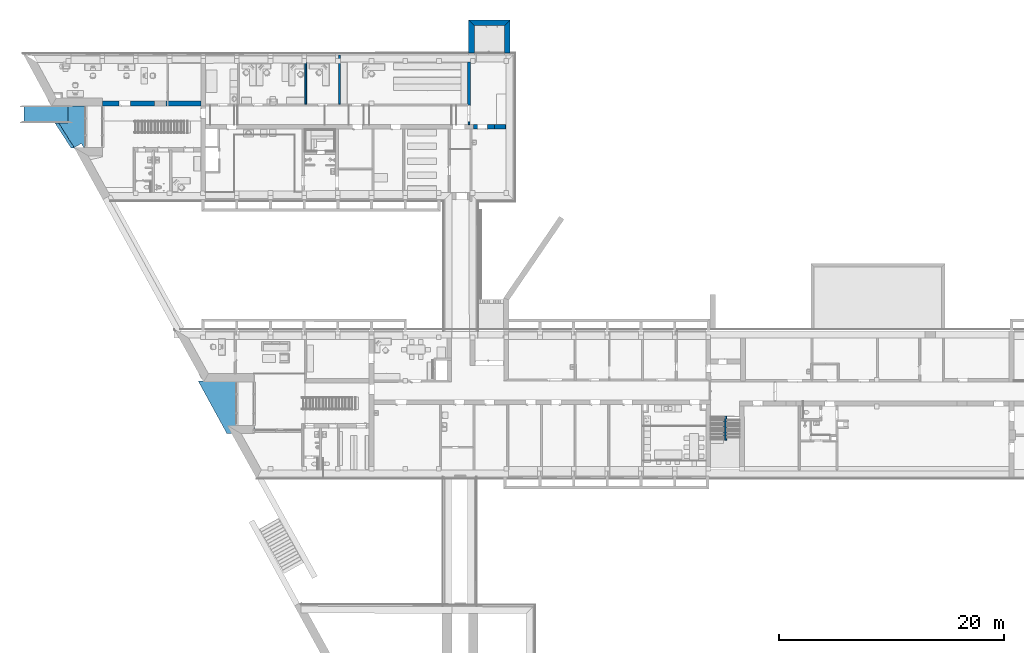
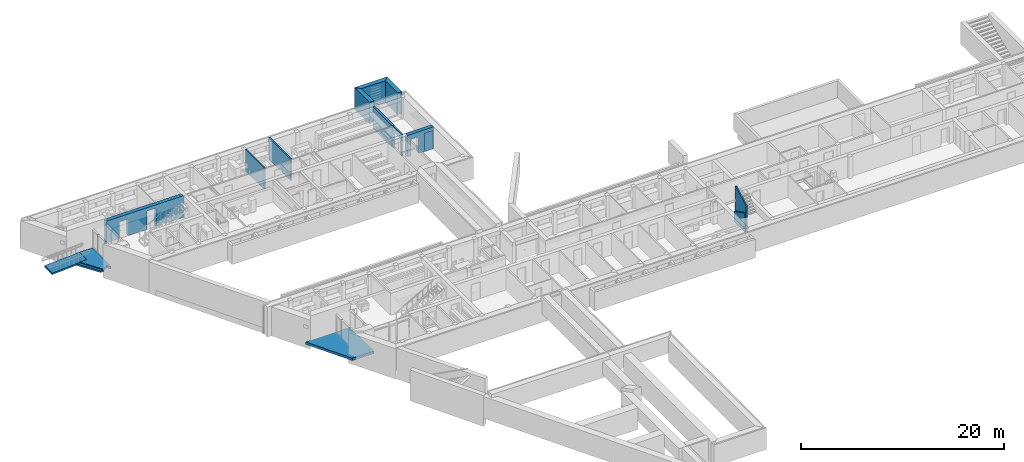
# One storey, part 25 of 127: 12 walls, 3 stairs, 1 ramp, 3 openings.
"""IFC2X3 building model written with IfcOpenShell, lengths in millimetres."""

from ifc_helpers import new_model, entity, si_unit, converted_unit, derived_unit, money_unit, direction, frame, origin_with_axes, origin_2d_with_axis, place, context, subcontext, project, spatial, polyline, rectangle, outline, extrude, boolean, faceted_brep, material, layer, layer_set, layer_usage, type_object, element, save


model = new_model("IFC2X3")

# Units and contexts
model_context = context("Model", 3, precision=1e-05, world=origin_with_axes(), true_north=direction((0.0, 1.0)))
body_context = subcontext(model_context, "Body", "Model", "MODEL_VIEW")
ifc_project = project(units=[si_unit("LENGTHUNIT", "METRE", prefix="MILLI"), si_unit("AREAUNIT", "SQUARE_METRE"), si_unit("VOLUMEUNIT", "CUBIC_METRE"), converted_unit("PLANEANGLEUNIT", "DEGREE", entity("IfcPlaneAngleMeasure", 0.0174532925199), si_unit("PLANEANGLEUNIT", "RADIAN"), dimensions=[0, 0, 0, 0, 0, 0, 0]), si_unit("SOLIDANGLEUNIT", "STERADIAN"), money_unit("EUR"), converted_unit("TIMEUNIT", "Year", entity("IfcTimeMeasure", 31556926.0), si_unit("TIMEUNIT", "SECOND"), dimensions=[0, 0, 1, 0, 0, 0, 0]), si_unit("MASSUNIT", "GRAM", prefix="KILO"), si_unit("THERMODYNAMICTEMPERATUREUNIT", "DEGREE_CELSIUS"), si_unit("LUMINOUSINTENSITYUNIT", "LUMEN"), si_unit("ENERGYUNIT", "JOULE", prefix="MEGA"), derived_unit("THERMALCONDUCTANCEUNIT", [(si_unit("POWERUNIT", "WATT"), 1), (si_unit("LENGTHUNIT", "METRE"), -1), (si_unit("THERMODYNAMICTEMPERATUREUNIT", "KELVIN"), -1)]), derived_unit("SPECIFICHEATCAPACITYUNIT", [(si_unit("ENERGYUNIT", "JOULE"), 1), (si_unit("MASSUNIT", "GRAM", prefix="KILO"), -1), (si_unit("THERMODYNAMICTEMPERATUREUNIT", "KELVIN"), -1)]), derived_unit("MASSDENSITYUNIT", [(si_unit("MASSUNIT", "GRAM", prefix="KILO"), 1), (si_unit("VOLUMEUNIT", "CUBIC_METRE"), -1)])], contexts=[model_context])

# Site, building, storey
site_placement = place(None, origin_with_axes())
site = spatial("IfcSite", under=ifc_project, at=site_placement, Name="Site", CompositionType="ELEMENT")
building_placement = place(site_placement, origin_with_axes())
building = spatial("IfcBuilding", under=site, at=building_placement, Name="Building", CompositionType="ELEMENT")
storey_placement = place(building_placement, origin_with_axes())
storey = spatial("IfcBuildingStorey", under=building, at=storey_placement, Name="1 KORRUS", CompositionType="ELEMENT", Elevation=0.0)

# Wall, opening
ifc_material_1 = material(Name="Kivi -Ol.Olev Konstruktsioon")
ifc_layer_1 = layer(ifc_material_1, 150.0, ventilated="UNKNOWN")
ifc_layer_set_1 = layer_set([ifc_layer_1], Name="ol.olev ss 150")
ifc_layer_usage_1 = layer_usage(ifc_layer_set_1, "AXIS2", "POSITIVE", -150.0)
wall_type_1 = type_object("IfcWallType", Name="SW - 022", PredefinedType="NOTDEFINED")
wall_1_placement = place(storey_placement, frame((39703.4457483, 67299.591735, 0.0), z_axis=(0.0, 0.0, 1.0), x_axis=(0.000119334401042, -0.99999999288, 0.0)))
wall_1 = element("IfcWallStandardCase", 1, at=wall_1_placement, inside=storey, type_object=wall_type_1, material=ifc_layer_usage_1, Name="ol.olev ss 150", context=body_context, shape_type="SweptSolid", body=[
    extrude(outline(polyline([(0.0, -150.0), (1663.20479062, -150.0), (1663.22269078, 0.0), (0.0, 0.0), (0.0, -150.0)])), origin_with_axes(), (0.0, 0.0, 1.0), 2600.0),
])
opening_1_placement = place(wall_1_placement, frame((688.401422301, 0.0, 0.0), z_axis=(0.0, 0.0, 1.0), x_axis=(1.0, 0.0, 0.0)))
element("IfcOpeningElement", 2, at=opening_1_placement, cuts=wall_1, Name="Siseuks * Double Door 22", context=body_context, shape_type="SweptSolid", body=[
    extrude(rectangle(XDim=1500.0, YDim=2000.0, at=origin_2d_with_axis()), frame((0.0, -150.0, 1000.0), z_axis=(0.0, 1.0, 0.0), x_axis=(1.0, 0.0, 0.0)), (0.0, 0.0, 1.0), 450.0),
    extrude(rectangle(XDim=1574.0, YDim=2037.0, at=origin_2d_with_axis()), frame((0.0, -150.0, 1018.5), z_axis=(0.0, 1.0, 0.0), x_axis=(1.0, 0.0, 0.0)), (0.0, 0.0, -1.0), 150.0),
    extrude(rectangle(XDim=1574.0, YDim=2037.0, at=origin_2d_with_axis()), frame((0.0, 0.0, 1018.5), z_axis=(0.0, -1.0, 0.0), x_axis=(1.0, 0.0, 0.0)), (0.0, 0.0, -1.0), 150.0),
])

wall_2_placement = place(storey_placement, frame((16158.8775557, 67299.2497991, 0.0), z_axis=(0.0, 0.0, 1.0), x_axis=(-0.999999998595, -5.30165371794e-05, 0.0)))
wall_2 = element("IfcWall", 3, at=wall_2_placement, inside=storey, type_object=wall_type_1, material=ifc_material_1, Name="ol.olev ss 420", context=body_context, shape_type="CSG", body=[
    boolean("DIFFERENCE", boolean("DIFFERENCE", extrude(outline(polyline([(-0.0222669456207, -420.0), (9175.71041666, -420.000000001), (9175.71041666, -9.09494701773e-10), (-0.0222669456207, 0.0), (-0.0222669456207, -420.0)])), origin_with_axes(), (0.0, 0.0, 1.0), 2600.0), faceted_brep([(4527.61858893, -0.0530171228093, 0.0), (4527.61858893, -0.0530171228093, 2200.0), (4527.59632479, -420.000000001, 2200.0), (4527.59632479, -420.000000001, 0.0), (3527.61859033, -5.85714587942e-07, 0.0), (3527.61859033, -5.85714587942e-07, 2200.0), (3527.59632339, -419.999999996, 2200.0), (3527.59632339, -419.999999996, 0.0)], [[[0, 1, 2, 3]], [[1, 0, 4, 5]], [[2, 1, 5, 6]], [[3, 2, 6, 7]], [[4, 0, 3, 7]], [[7, 6, 5, 4]]])), faceted_brep([(420.00000059, 0.0, 0.0), (420.00000059, 0.0, 2600.0), (419.977733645, -420.0, 2600.0), (419.977733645, -420.0, 0.0), (-0.0222669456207, 0.0, 0.0), (-0.0222669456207, 0.0, 2600.0), (-0.0222669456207, -420.0, 2600.0), (-0.0222669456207, -420.0, 0.0)], [[[0, 1, 2, 3]], [[1, 0, 4, 5]], [[2, 1, 5, 6]], [[6, 7, 3, 2]], [[0, 3, 7, 4]], [[7, 6, 5, 4]]])),
])
opening_2_placement = place(wall_2_placement, frame((7189.31448675, -9.09494701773e-10, 0.0), z_axis=(0.0, 0.0, 1.0), x_axis=(1.0, 0.0, 0.0)))
element("IfcOpeningElement", 4, at=opening_2_placement, cuts=wall_2, Name="Siseuks * Door 22", context=body_context, shape_type="SweptSolid", body=[
    extrude(rectangle(XDim=1000.0, YDim=2000.0, at=origin_2d_with_axis()), frame((0.0, -420.000000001, 1000.0), z_axis=(0.0, -1.0, 0.0), x_axis=(-1.0, 0.0, 0.0)), (0.0, 0.0, -1.0), 1260.0),
    extrude(rectangle(XDim=1074.0, YDim=2037.0, at=origin_2d_with_axis()), frame((2.27373675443e-10, -420.0, 1018.5), z_axis=(0.0, -1.0, 0.0), x_axis=(-1.0, 0.0, 0.0)), (0.0, 0.0, 1.0), 420.000000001),
    extrude(rectangle(XDim=1074.0, YDim=2037.0, at=origin_2d_with_axis()), frame((0.0, 0.0, 1018.5), z_axis=(0.0, 1.0, 0.0), x_axis=(-1.0, 0.0, 0.0)), (0.0, 0.0, 1.0), 420.000000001),
])

# Wall
ifc_layer_2 = layer(ifc_material_1, 250.0, ventilated="UNKNOWN")
ifc_layer_set_2 = layer_set([ifc_layer_2], Name="ol.olev ss 250")
ifc_layer_usage_2 = layer_usage(ifc_layer_set_2, "AXIS2", "POSITIVE", -250.0)
wall_3_placement = place(storey_placement, frame((39753.4452833, 71196.3690561, 0.0), z_axis=(0.0, 0.0, 1.0), x_axis=(0.0, -1.0, 0.0)))
element("IfcWallStandardCase", 5, at=wall_3_placement, inside=storey, type_object=wall_type_1, material=ifc_layer_usage_2, Name="ol.olev ss 250", context=body_context, shape_type="SweptSolid", body=[
    extrude(outline(polyline([(0.0, -250.0), (3746.77732121, -250.0), (3896.77732121, 0.0), (0.0, 0.0), (0.0, -250.0)])), origin_with_axes(), (0.0, 0.0, 1.0), 2600.0),
])

# Wall, opening
wall_4_placement = place(storey_placement, frame((43567.7374192, 65636.3690561, 0.0), z_axis=(0.0, 0.0, 1.0), x_axis=(-1.0, 0.0, 0.0)))
wall_4 = element("IfcWall", 6, at=wall_4_placement, inside=storey, type_object=wall_type_1, material=ifc_material_1, Name="ol.olev ss 420", context=body_context, shape_type="CSG", body=[
    boolean("DIFFERENCE", boolean("DIFFERENCE", extrude(outline(polyline([(-170.001301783, 0.0), (3552.88674047, 0.0), (3552.88674047, 420.0), (-170.001301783, 420.0), (-170.001301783, 0.0)])), origin_with_axes(), (0.0, 0.0, 1.0), 2600.0), faceted_brep([(1657.27493251, -1.81898940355e-09, 0.0), (1657.27493251, -1.81898940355e-09, 2200.0), (707.274932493, -1.81898940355e-09, 2200.0), (707.274932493, -1.81898940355e-09, 0.0), (1657.27493251, 419.999999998, 0.0), (1657.27493251, 419.999999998, 2200.0), (707.274932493, 419.999999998, 2200.0), (707.274932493, 419.999999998, 0.0)], [[[0, 1, 2, 3]], [[1, 0, 4, 5]], [[2, 1, 5, 6]], [[3, 2, 6, 7]], [[4, 0, 3, 7]], [[5, 4, 7, 6]]])), faceted_brep([(630.000000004, 0.0, 0.0), (630.000000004, 0.0, 2600.0), (-170.001301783, 0.0, 2600.0), (-170.001301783, 0.0, 0.0), (629.998698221, 420.0, 2600.0), (629.998698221, 420.0, 0.0), (-170.001301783, 420.0, 2600.0), (-170.001301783, 420.0, 0.0)], [[[0, 1, 2, 3]], [[4, 1, 0, 5]], [[1, 4, 6, 2]], [[6, 7, 3, 2]], [[5, 0, 3, 7]], [[4, 5, 7, 6]]])),
])
opening_3_placement = place(wall_4_placement, frame((2754.27520312, 0.0, 0.0), z_axis=(0.0, 0.0, 1.0), x_axis=(1.0, 0.0, 0.0)))
element("IfcOpeningElement", 7, at=opening_3_placement, cuts=wall_4, Name="Siseuks * Door 22", context=body_context, shape_type="SweptSolid", body=[
    extrude(rectangle(XDim=900.0, YDim=2000.0, at=origin_2d_with_axis()), frame((0.0, 280.0, 1000.0), z_axis=(0.0, 1.0, 0.0), x_axis=(1.0, 0.0, 0.0)), (0.0, 0.0, -1.0), 700.0),
    extrude(rectangle(XDim=900.0, YDim=2000.0, at=origin_2d_with_axis()), frame((0.0, 280.0, 1000.0), z_axis=(0.0, -1.0, 0.0), x_axis=(1.0, 0.0, 0.0)), (0.0, 0.0, -1.0), 560.0),
    extrude(rectangle(XDim=974.0, YDim=2037.0, at=origin_2d_with_axis()), frame((0.0, 420.0, 1018.5), z_axis=(0.0, -1.0, 0.0), x_axis=(1.0, 0.0, 0.0)), (0.0, 0.0, -1.0), 700.0),
    extrude(rectangle(XDim=974.0, YDim=2037.0, at=origin_2d_with_axis()), frame((0.0, 0.0, 1018.5), z_axis=(0.0, 1.0, 0.0), x_axis=(1.0, 0.0, 0.0)), (0.0, 0.0, -1.0), 700.0),
])

# Walls
ifc_material_2 = material(Name="Kivi -  Uus Konstruktsioon")
ifc_layer_3 = layer(ifc_material_2, 420.0, ventilated="UNKNOWN")
ifc_layer_set_3 = layer_set([ifc_layer_3], Name="uus kinni ehitav sein 420")
ifc_layer_usage_3 = layer_usage(ifc_layer_set_3, "AXIS2", "NEGATIVE", 0.0)
wall_type_2 = type_object("IfcWallType", Name="FIBO", PredefinedType="NOTDEFINED")
wall_5_placement = place(storey_placement, frame((42860.4624867, 65216.3690561, 0.0), z_axis=(0.0, 0.0, 1.0), x_axis=(-1.0, 0.0, 0.0)))
element("IfcWallStandardCase", 8, at=wall_5_placement, inside=storey, type_object=wall_type_2, material=ifc_layer_usage_3, Name="uus kinni ehitav sein 420", context=body_context, shape_type="SweptSolid", body=[
    extrude(outline(polyline([(0.0, -420.0), (950.000000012, -420.0), (950.000000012, 0.0), (0.0, 0.0), (0.0, -420.0)])), origin_with_axes(), (0.0, 0.0, 1.0), 2200.0),
])
wall_type_3 = type_object("IfcWallType", Name="SW - 036", PredefinedType="NOTDEFINED")
wall_6_placement = place(storey_placement, frame((62276.2129956, 39657.6435548, 0.0), z_axis=(0.0, 0.0, 1.0), x_axis=(0.0, -1.0, 0.0)))
element("IfcWall", 9, at=wall_6_placement, inside=storey, type_object=wall_type_3, material=ifc_material_1, Name="ol.olev ss 150", context=body_context, shape_type="CSG", body=[
    boolean("DIFFERENCE", extrude(outline(polyline([(0.0, 0.0), (2149.41807892, 0.0), (2149.41807892, 150.0), (0.0, 150.0), (0.0, 0.0)])), origin_with_axes(), (0.0, 0.0, 1.0), 2298.21677444), faceted_brep([(2148.16985193, 149.99999993, 2298.21677444), (0.0, 149.99999993, 1200.63776509), (0.0, 150.0, 2298.21677444), (0.0, 0.0, 1200.63776509), (2148.16985193, 0.0, 2298.21677444), (0.0, 0.0, 2298.21677444)], [[[0, 1, 2]], [[3, 1, 0, 4]], [[1, 3, 5, 2]], [[4, 0, 2, 5]], [[3, 4, 5]]])),
])
ifc_layer_usage_4 = layer_usage(ifc_layer_set_1, "AXIS2", "POSITIVE", 0.0)
wall_type_4 = type_object("IfcWallType", Name="SW - 024", PredefinedType="NOTDEFINED")
wall_7_placement = place(storey_placement, frame((28160.1478384, 67449.5917349, 0.0), z_axis=(0.0, 0.0, 1.0), x_axis=(0.0, 1.0, 0.0)))
element("IfcWallStandardCase", 10, at=wall_7_placement, inside=storey, type_object=wall_type_4, material=ifc_layer_usage_4, Name="ol.olev ss 150", context=body_context, shape_type="SweptSolid", body=[
    extrude(outline(polyline([(0.0, 0.0), (4361.71318505, 0.0), (4361.71318505, 150.0), (0.0, 150.0), (0.0, 0.0)])), origin_with_axes(), (0.0, 0.0, 1.0), 2600.0),
])
ifc_layer_usage_5 = layer_usage(ifc_layer_set_1, "AXIS2", "POSITIVE", 0.0)
wall_type_5 = type_object("IfcWallType", Name="SW - 023", PredefinedType="NOTDEFINED")
wall_8_placement = place(storey_placement, frame((25160.7533698, 67449.5917349, 0.0), z_axis=(0.0, 0.0, 1.0), x_axis=(0.0, 1.0, 0.0)))
element("IfcWallStandardCase", 11, at=wall_8_placement, inside=storey, type_object=wall_type_5, material=ifc_layer_usage_5, Name="ol.olev ss 150", context=body_context, shape_type="SweptSolid", body=[
    extrude(outline(polyline([(0.0, 0.0), (3729.20456656, 0.0), (3729.0183801, 150.0), (0.0, 150.0), (0.0, 0.0)])), origin_with_axes(), (0.0, 0.0, 1.0), 2600.0),
])
wall_type_6 = type_object("IfcWallType", Name="SW - 037", PredefinedType="NOTDEFINED")
wall_9_placement = place(storey_placement, frame((62576.2129955, 39657.6435548, 0.0), z_axis=(0.0, 0.0, 1.0), x_axis=(0.0, -1.0, 0.0)))
element("IfcWall", 12, at=wall_9_placement, inside=storey, type_object=wall_type_6, material=ifc_material_1, Name="ol.olev ss 150", context=body_context, shape_type="CSG", body=[
    boolean("DIFFERENCE", extrude(outline(polyline([(0.0, -150.0), (2150.03403193, -150.0), (2150.03403193, 0.0), (0.0, 0.0), (0.0, -150.0)])), origin_with_axes(), (0.0, 0.0, 1.0), 4200.0), faceted_brep([(2150.03403193, 0.0, 3096.03581556), (150.000000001, 0.0, 4200.0), (2150.03403193, 0.0, 4200.0), (150.000000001, -150.0, 4200.0), (2150.03403193, -150.0, 3096.03581556), (2150.03403193, -150.0, 4200.0)], [[[0, 1, 2]], [[3, 1, 0, 4]], [[1, 3, 5, 2]], [[4, 0, 2, 5]], [[3, 4, 5]]])),
])
ifc_material_3 = material(Name="Kivi - Ol.Olev Konstruktsioon")
ifc_layer_4 = layer(ifc_material_3, 500.0, ventilated="UNKNOWN")
ifc_layer_set_4 = layer_set([ifc_layer_4], Name="Ol.olve tugimüür 500")
ifc_layer_usage_6 = layer_usage(ifc_layer_set_4, "AXIS2", "NEGATIVE", 500.0)
wall_type_7 = type_object("IfcWallType", Name="VS4", PredefinedType="NOTDEFINED")
wall_10_placement = place(storey_placement, frame((40099.7241185, 74445.5412508, 0.0), z_axis=(0.0, 0.0, 1.0), x_axis=(1.0, 0.0, 0.0)))
element("IfcWallStandardCase", 13, at=wall_10_placement, inside=storey, type_object=wall_type_7, material=ifc_layer_usage_6, Name="Ol.olve tugimüür 500", context=body_context, shape_type="SweptSolid", body=[
    extrude(outline(polyline([(1.13686837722e-10, 0.0), (2690.71106143, 0.0), (3190.71106143, 500.0), (-500.621006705, 500.0), (1.13686837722e-10, 0.0)])), origin_with_axes(), (0.0, 0.0, 1.0), 2600.0),
])
ifc_layer_usage_7 = layer_usage(ifc_layer_set_4, "AXIS2", "NEGATIVE", 500.0)
wall_type_8 = type_object("IfcWallType", Name="VS3", PredefinedType="NOTDEFINED")
wall_11_placement = place(storey_placement, frame((40102.973938, 71827.3437145, 0.0), z_axis=(0.0, 0.0, 1.0), x_axis=(-0.00124124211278, 0.999999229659, 0.0)))
element("IfcWallStandardCase", 14, at=wall_11_placement, inside=storey, type_object=wall_type_8, material=ifc_layer_usage_7, Name="Ol.olve tugimüür 500", context=body_context, shape_type="SweptSolid", body=[
    extrude(outline(polyline([(189.999999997, 0.0), (2618.19955321, 0.0), (3118.82055991, 500.0), (189.999999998, 500.0), (189.999999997, 0.0)])), origin_with_axes(), (0.0, 0.0, 1.0), 2600.0),
])
ifc_layer_usage_8 = layer_usage(ifc_layer_set_4, "AXIS2", "NEGATIVE", 500.0)
wall_type_9 = type_object("IfcWallType", Name="VS5", PredefinedType="NOTDEFINED")
wall_12_placement = place(storey_placement, frame((42790.4351799, 74445.5412508, 0.0), z_axis=(0.0, 0.0, 1.0), x_axis=(0.0, -1.0, 0.0)))
element("IfcWallStandardCase", 15, at=wall_12_placement, inside=storey, type_object=wall_type_9, material=ifc_layer_usage_8, Name="Ol.olve tugimüür 500", context=body_context, shape_type="SweptSolid", body=[
    extrude(outline(polyline([(0.0, 0.0), (2424.8615973, 0.0), (2424.24097576, 500.0), (-500.0, 500.0), (0.0, 0.0)])), origin_with_axes(), (0.0, 0.0, 1.0), 2600.0),
])

# Stairs
ifc_material_4 = material(Name="Betoon - Ol.Olev konstruktsioon")
stair_1_placement = place(storey_placement, frame((2746.376583, 65776.7530074, -90.0), z_axis=(0.0, 0.0, 1.0), x_axis=(1.0, 0.0, 0.0)))
element("IfcStair", 16, at=stair_1_placement, inside=storey, material=ifc_material_4, Name="Betoon - Ol.Olev konstruktsioon", ShapeType="NOTDEFINED", context=body_context, shape_type="SweptSolid", body=[
    extrude(outline(polyline([(0.0, 0.0), (1449.06062805, -2245.10916509), (1755.01661116, -2256.50295429), (332.530813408, 4.65661287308e-07), (0.0, 0.0)])), frame((0.0, 0.0, -210.0), z_axis=(0.0, 0.0, 1.0), x_axis=(1.0, 0.0, 0.0)), (0.0, 0.0, 1.0), 210.0),
])
stair_2_placement = place(storey_placement, frame((3081.19151765, 65776.7530074, 0.0), z_axis=(0.0, 0.0, 1.0), x_axis=(1.0, 0.0, 0.0)))
element("IfcStair", 17, at=stair_2_placement, inside=storey, material=ifc_material_4, Name="Betoon - Ol.Olev konstruktsioon", ShapeType="NOTDEFINED", context=body_context, shape_type="CSG", body=[
    boolean("DIFFERENCE", extrude(outline(polyline([(0.0, 0.0), (1382.13138617, -2187.35540239), (2322.59486462, -2183.98164654), (2318.10892711, 1499.99999907), (849.949263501, 1499.99999907), (849.949263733, 0.0), (0.0, 0.0)])), frame((0.0, 0.0, -300.0), z_axis=(0.0, 0.0, 1.0), x_axis=(1.0, 0.0, 0.0)), (0.0, 0.0, 1.0), 300.0), faceted_brep([(1382.13138617, -2187.35540239, 0.0), (1382.13138617, -2187.35540239, -300.0), (2225.20888088, -2184.33100251, -300.0), (2225.20888088, -2184.33100251, 0.0), (2030.37616851, -1830.45387232, 0.0), (2030.37616851, -1830.45387232, -300.0)], [[[0, 1, 2, 3]], [[0, 4, 5, 1]], [[5, 2, 1]], [[4, 3, 2, 5]], [[4, 0, 3]]])),
])
stair_3_placement = place(storey_placement, frame((15496.465599, 42809.4511801, 0.0), z_axis=(0.0, 0.0, 1.0), x_axis=(1.0, 0.0, 0.0)))
element("IfcStair", 18, at=stair_3_placement, inside=storey, material=ifc_material_4, Name="Betoon - Ol.Olev konstruktsioon", ShapeType="NOTDEFINED", context=body_context, shape_type="SweptSolid", body=[
    extrude(outline(polyline([(0.0, 0.0), (2575.37881978, -4711.9213285), (5004.56001346, -4711.26127155), (4998.83720824, -11.5280981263), (0.0, 0.0)])), frame((0.0, 0.0, -300.0), z_axis=(0.0, 0.0, 1.0), x_axis=(1.0, 0.0, 0.0)), (0.0, 0.0, 1.0), 300.0),
])

# Ramp
ramp_placement = place(storey_placement, frame((-22.6998078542, 65776.753007, -437.32604572), z_axis=(0.0, 0.0, 1.0), x_axis=(-6.2088171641e-10, 1.0, 0.0)))
element("IfcRamp", 19, at=ramp_placement, inside=storey, material=ifc_material_2, Name="Pandus 1", ShapeType="NOTDEFINED", context=body_context, shape_type="SweptSolid", body=[
    extrude(outline(polyline([(0.0, 0.0), (-1.52158463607e-06, -3957.54388846), (1499.99999662, -3957.54388916), (1500.0, -6.99748086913e-07), (375.197662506, 1.00179822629), (0.0, 0.0)])), frame((0.0, 0.0, 0.0), z_axis=(0.0, 0.0598922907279, 0.998204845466), x_axis=(1.0, 0.0, 0.0)), (0.0, -0.0598922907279, 0.998204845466), 200.359676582),
])

save(model, "model.ifc")
